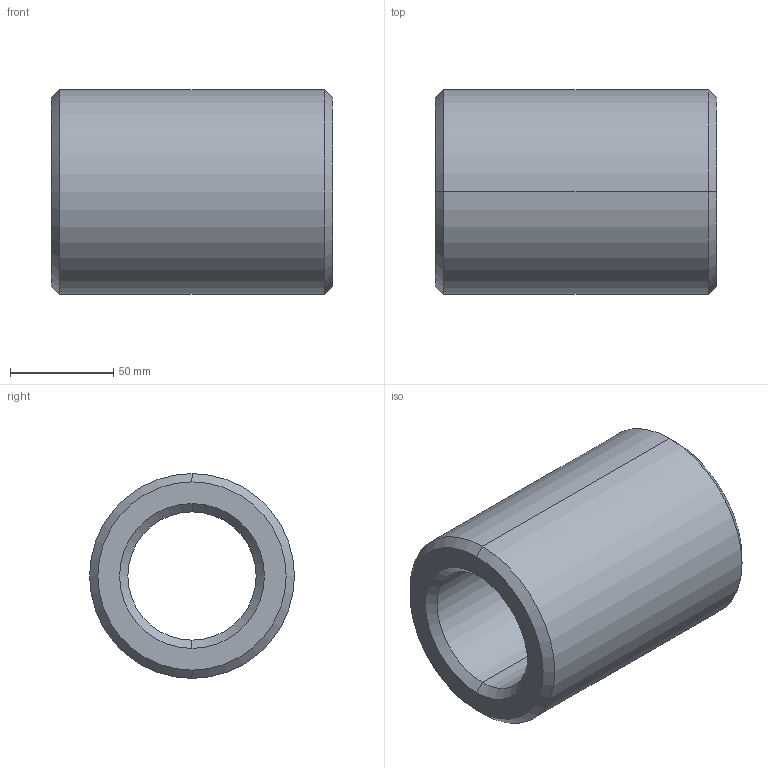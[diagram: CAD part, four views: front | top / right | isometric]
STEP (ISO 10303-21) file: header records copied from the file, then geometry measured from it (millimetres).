
FILE_DESCRIPTION (( 'STEP AP203' ), '1' );
FILE_NAME ('Muffe M64.STEP', '2018-02-22T09:23:56', ( 'install' ), ( 'Hewlett-Packard Company' ), 'SwSTEP 2.0', 'SolidWorks 2017', '' );
FILE_SCHEMA (( 'CONFIG_CONTROL_DESIGN' ));
Length unit declared in the file: millimetre
Products named in the file (1): Muffe M64
Bounding box: 136 x 99 x 99 mm (x, y, z)
Volume: 628199.2 mm3; surface area: 75775.2 mm2
Topology: 1 solids, 1 shells, 14 faces, 28 edges, 16 vertices
Faces by surface type: cone 8, cylinder 4, plane 2
Entity records: 445 total; most frequent: DIRECTION 74, CARTESIAN_POINT 59, ORIENTED_EDGE 56, AXIS2_PLACEMENT_3D 31, EDGE_CURVE 28, VERTEX_POINT 16, EDGE_LOOP 16, CIRCLE 16
